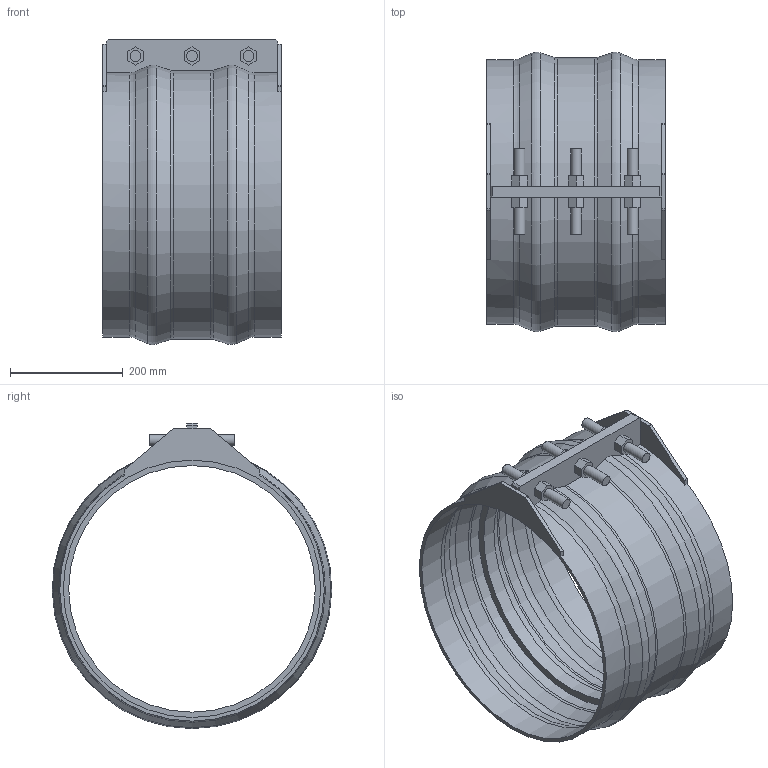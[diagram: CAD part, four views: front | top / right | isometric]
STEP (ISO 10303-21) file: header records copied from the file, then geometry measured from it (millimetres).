
FILE_DESCRIPTION(/* description */ ('VIC RESTRAINED COUPLING STYLE 233 (FLEX) (BRD)','CAx-IF Rec.Pracs.---Representation and Presentation of Product Manufacturing Information (PMI)---4.0---2014-10-13'),/* implementation_level */ '2;1');
FILE_NAME(/* name */ 'C:\Users\Vjadhav\Desktop\CAD for Inventor\Test for STEP\Vivek\Adsk_Inventor_Bolted Sleeve_iParts\STEP\Victaulic_VBSP_Coupling Flexible Restrained_Style 233 (BRD)\Victaulic_VBSP_Coupling Flexible Restrained_Style 233 (BRD)_300psi_18 (450).stp',/* time_stamp */ '2020-09-24T12:29:07+06:00',/* author */ ('Vjadhav'),/* organization */ ('Victaulic'),/* preprocessor_version */ 'ST-DEVELOPER v17.2',/* originating_system */ 'Autodesk Inventor 2019',/* authorisation */ '');
FILE_SCHEMA (('AP242_MANAGED_MODEL_BASED_3D_ENGINEERING_MIM_LF { 1 0 10303 442 1 1 4 }'));
Length unit declared in the file: inch
Products named in the file (1): Style_233_Type_2_300psi-18.0
Bounding box: 317.5 x 496.5 x 542.3 mm (x, y, z)
Volume: 4091526.2 mm3; surface area: 1111235.5 mm2
Topology: 1 solids, 1 shells, 115 faces, 309 edges, 210 vertices
Faces by surface type: plane 73, cylinder 22, torus 12, cone 8
Full cylindrical faces by diameter (mm): 19.05 x6, 438.15 x1, 457.2 x2, 463.55 x2
Entity records: 3970 total; most frequent: CARTESIAN_POINT 764, DIRECTION 645, ORIENTED_EDGE 618, EDGE_CURVE 309, AXIS2_PLACEMENT_3D 227, VERTEX_POINT 210, LINE 191, VECTOR 191
